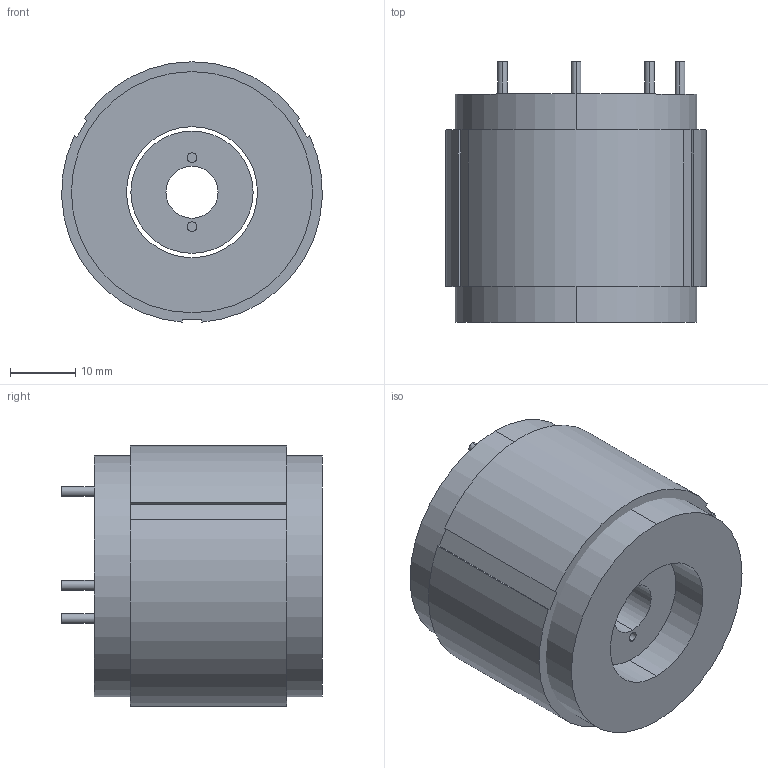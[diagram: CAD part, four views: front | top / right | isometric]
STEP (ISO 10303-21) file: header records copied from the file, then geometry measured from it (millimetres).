
FILE_DESCRIPTION (( 'STEP AP203' ), '1' );
FILE_NAME ('TM40-34 KIT 3D.STEP', '2023-01-03T07:18:16', ( '' ), ( '' ), 'SwSTEP 2.0', 'SolidWorks 2021', '' );
FILE_SCHEMA (( 'CONFIG_CONTROL_DESIGN' ));
Length unit declared in the file: millimetre
Products named in the file (1): TM40-34 KIT 3D
Bounding box: 39.97 x 40 x 39.94 mm (x, y, z)
Volume: 37471.8 mm3; surface area: 16698.2 mm2
Topology: 3 solids, 3 shells, 52 faces, 114 edges, 76 vertices
Faces by surface type: cylinder 29, plane 23
Entity records: 1541 total; most frequent: DIRECTION 278, CARTESIAN_POINT 243, ORIENTED_EDGE 228, EDGE_CURVE 114, AXIS2_PLACEMENT_3D 111, VERTEX_POINT 76, EDGE_LOOP 66, CIRCLE 58
